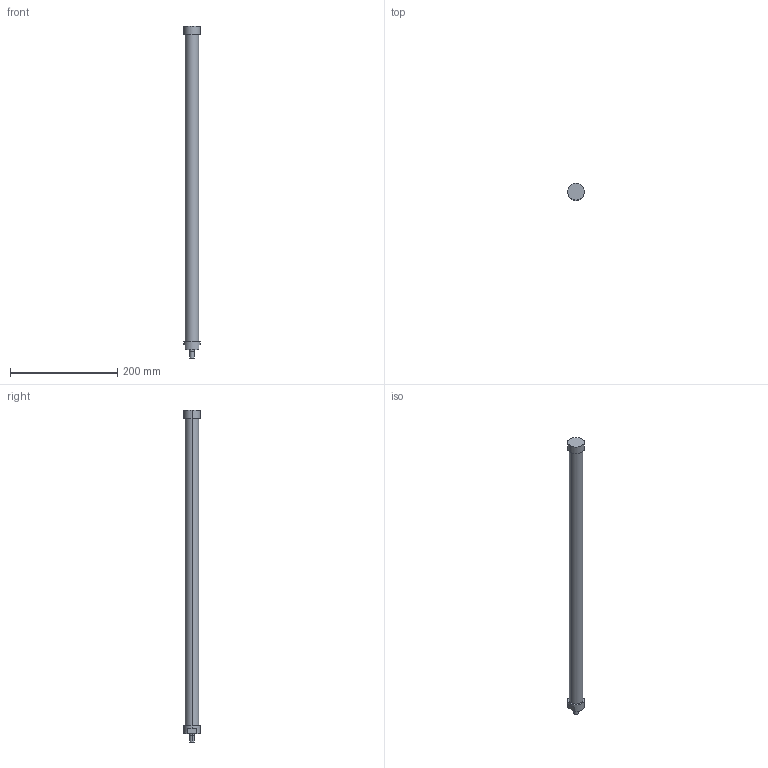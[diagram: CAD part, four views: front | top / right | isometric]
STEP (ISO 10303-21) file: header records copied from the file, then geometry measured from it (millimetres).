
FILE_DESCRIPTION(('STEP AP214'),'1');
FILE_NAME('ETT-R050M614.stp','2015-02-02T15:18:47',(' '),(' '),'Spatial InterOp 3D',' ',' ');
FILE_SCHEMA(('automotive_design'));
Length unit declared in the file: metre
Products named in the file (2): 1; 2
Bounding box: 31 x 31 x 619 mm (x, y, z)
Volume: 304586.1 mm3; surface area: 50675 mm2
Topology: 1 solids, 4 shells, 20 faces, 48 edges, 36 vertices
Faces by surface type: cylinder 10, plane 10
Entity records: 812 total; most frequent: DIRECTION 120, CARTESIAN_POINT 106, ORIENTED_EDGE 84, AXIS2_PLACEMENT_3D 50, EDGE_CURVE 48, VERTEX_POINT 36, CIRCLE 28, EDGE_LOOP 24
